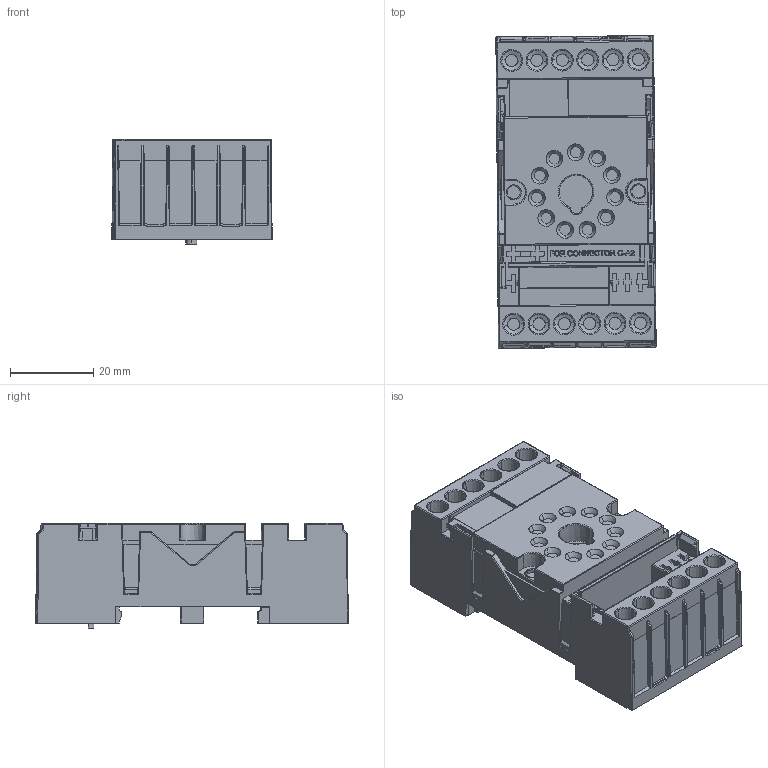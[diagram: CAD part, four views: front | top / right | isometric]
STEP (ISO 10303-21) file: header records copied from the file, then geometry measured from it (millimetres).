
FILE_DESCRIPTION (( 'STEP AP214' ), '1' );
FILE_NAME ('S3-M_S3-M0_S3-M1.STEP', '2020-11-30T13:02:45', ( '' ), ( '' ), 'SwSTEP 2.0', 'SolidWorks 2016', '' );
FILE_SCHEMA (( 'AUTOMOTIVE_DESIGN' ));
Length unit declared in the file: millimetre
Products named in the file (1): S3-M_S3-M0_S3-M1
Bounding box: 38.59 x 75.3 x 25.3 mm (x, y, z)
Volume: 55247.3 mm3; surface area: 15312.3 mm2
Topology: 1 solids, 1 shells, 1353 faces, 3545 edges, 2243 vertices
Faces by surface type: plane 652, cylinder 345, bspline 257, cone 99
Entity records: 54472 total; most frequent: CARTESIAN_POINT 24394, ORIENTED_EDGE 7062, DIRECTION 4945, EDGE_CURVE 3531, VERTEX_POINT 2243, VECTOR 2083, LINE 2083, AXIS2_PLACEMENT_3D 1431
